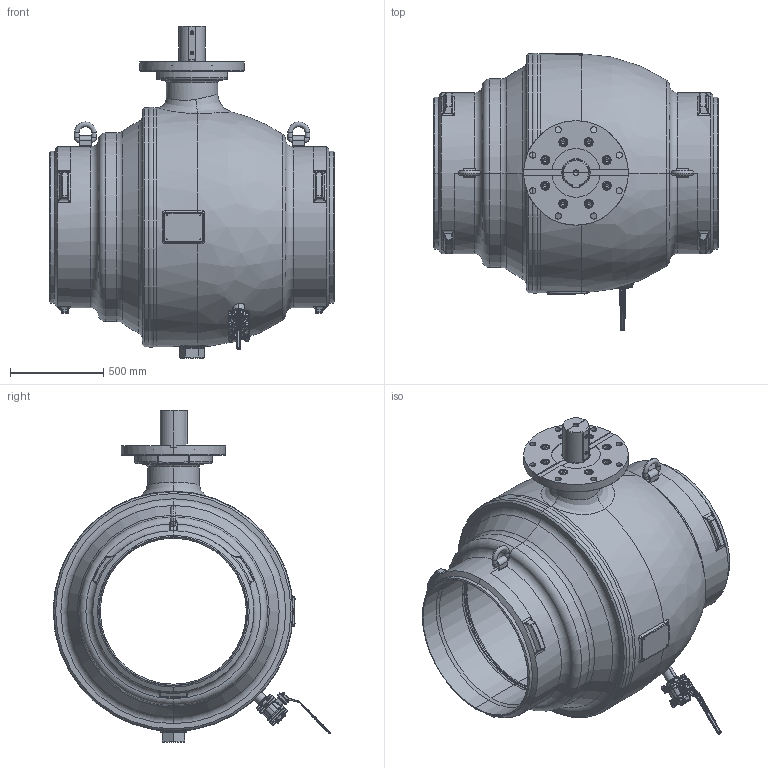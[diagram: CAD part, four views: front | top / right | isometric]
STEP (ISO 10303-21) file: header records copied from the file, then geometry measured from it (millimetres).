
FILE_DESCRIPTION((''),'2;1');
FILE_NAME('KHSVI_800_FR_WE_ENTL','2026-01-27T14:26:19',('schwaba'),('KLINGER'),'CREO PARAMETRIC BY PTC INC, 2023014','CREO PARAMETRIC BY PTC INC, 2023014','');
FILE_SCHEMA(('CONFIG_CONTROL_DESIGN'));
Length unit declared in the file: millimetre
Products named in the file (1): KHSVI_800_FR_WE_ENTL
Bounding box: 1524 x 1486.43 x 1778.5 mm (x, y, z)
Volume: 469980957.4 mm3; surface area: 22722380.9 mm2
Topology: 5 solids, 10 shells, 4033 faces, 9823 edges, 5903 vertices
Faces by surface type: plane 1301, cylinder 1059, torus 568, bspline 555, cone 413, sphere 98, revolution 31, extrusion 8
Entity records: 241669 total; most frequent: CARTESIAN_POINT 152259, ORIENTED_EDGE 19532, DIRECTION 17805, EDGE_CURVE 9766, AXIS2_PLACEMENT_3D 7389, VERTEX_POINT 5903, EDGE_LOOP 4299, FACE_OUTER_BOUND 4033
